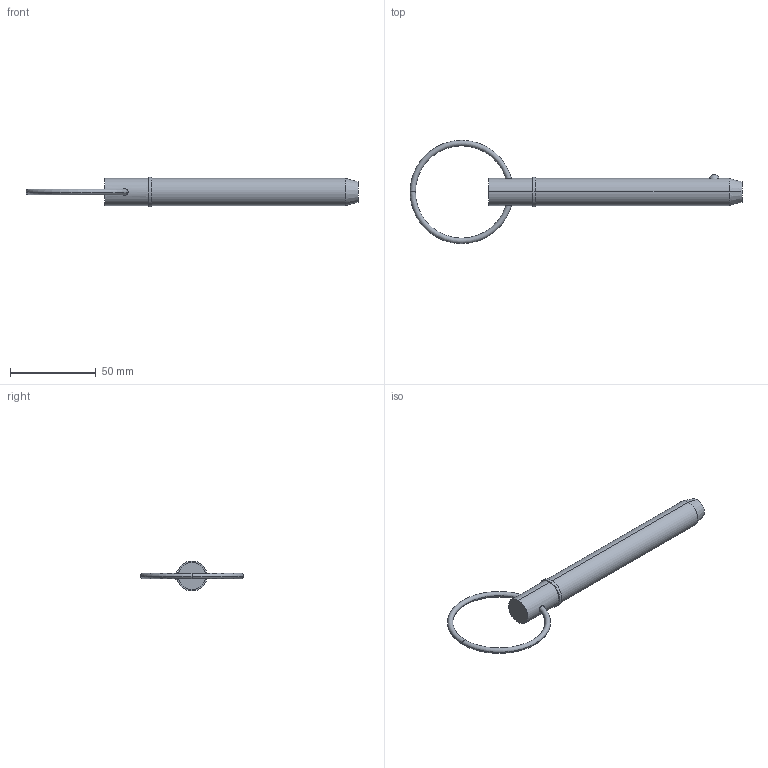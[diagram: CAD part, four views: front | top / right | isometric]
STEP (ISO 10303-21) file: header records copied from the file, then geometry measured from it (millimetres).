
FILE_DESCRIPTION (( 'STEP AP203' ), '1' );
FILE_NAME ('33014.W6240.step', '2024-11-04T08:34:01', ( '' ), ( '' ), 'SwSTEP 2.0', 'SolidWorks 2019', '' );
FILE_SCHEMA (( 'CONFIG_CONTROL_DESIGN' ));
Length unit declared in the file: millimetre
Products named in the file (3): 33014.W6240; Part1_33014.W6240; Part2_33014.W6240
Assembly tree (2 placements, depth 2):
  33014.W6240
    Part1_33014.W6240
    Part2_33014.W6240
Bounding box: 193.98 x 60.33 x 17.47 mm (x, y, z)
Volume: 30295 mm3; surface area: 9728.3 mm2
Topology: 2 solids, 2 shells, 22 faces, 43 edges, 26 vertices
Faces by surface type: torus 8, cylinder 6, plane 4, sphere 2, cone 2
Entity records: 1047 total; most frequent: CARTESIAN_POINT 270, DIRECTION 120, ORIENTED_EDGE 86, AXIS2_PLACEMENT_3D 56, EDGE_CURVE 43, CIRCLE 29, EDGE_LOOP 27, VERTEX_POINT 26
